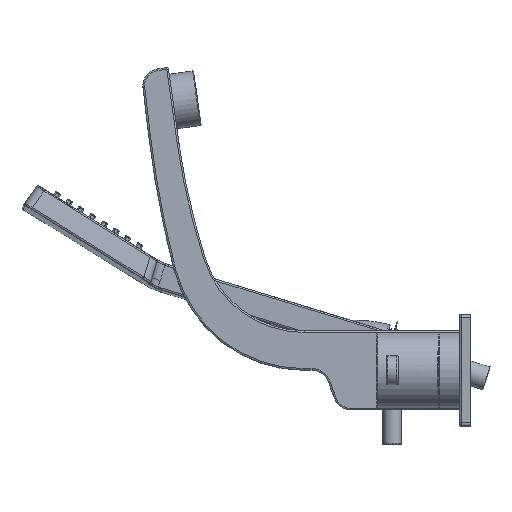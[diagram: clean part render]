
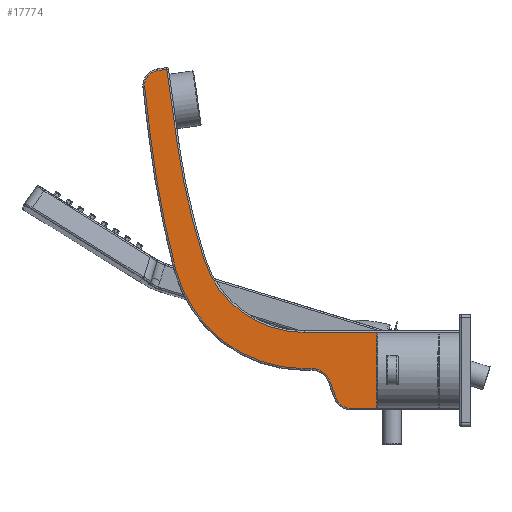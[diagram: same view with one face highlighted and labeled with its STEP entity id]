
A CAD part, left-side view. The second image highlights one B-rep face of the part: STEP entity #17774.
In plain terms, the highlighted planar face has unit normal (-1, 0, 0).
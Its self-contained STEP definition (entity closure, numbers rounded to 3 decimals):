
#573=PLANE('',#19108);
#1599=FACE_OUTER_BOUND('',#2845,.T.);
#2845=EDGE_LOOP('',(#12581,#12582,#12583,#12584,#12585,#12586,#12587,#12588,
#12589,#12590,#12591,#12592,#12593,#12594,#12595));
#4210=LINE('',#40408,#5496);
#4215=LINE('',#40424,#5501);
#4216=LINE('',#40434,#5502);
#4217=LINE('',#40438,#5503);
#4218=LINE('',#40444,#5504);
#4219=LINE('',#40448,#5505);
#4220=LINE('',#40452,#5506);
#4221=LINE('',#40453,#5507);
#5496=VECTOR('',#21754,43.323);
#5501=VECTOR('',#21769,90.);
#5502=VECTOR('',#21782,5.207);
#5503=VECTOR('',#21785,27.094);
#5504=VECTOR('',#21790,4.627);
#5505=VECTOR('',#21793,10.472);
#5506=VECTOR('',#21796,62.998);
#5507=VECTOR('',#21797,44.);
#6786=CIRCLE('',#19107,61.);
#6787=CIRCLE('',#19109,399.521);
#6788=CIRCLE('',#19110,9.);
#6789=CIRCLE('',#19111,595.154);
#6790=CIRCLE('',#19112,77.);
#6791=CIRCLE('',#19113,11.);
#6792=CIRCLE('',#19114,9.);
#8086=VERTEX_POINT('',#40405);
#8087=VERTEX_POINT('',#40407);
#8092=VERTEX_POINT('',#40420);
#8093=VERTEX_POINT('',#40422);
#8095=VERTEX_POINT('',#40428);
#8096=VERTEX_POINT('',#40433);
#8097=VERTEX_POINT('',#40435);
#8098=VERTEX_POINT('',#40437);
#8099=VERTEX_POINT('',#40439);
#8100=VERTEX_POINT('',#40441);
#8101=VERTEX_POINT('',#40443);
#8102=VERTEX_POINT('',#40445);
#8103=VERTEX_POINT('',#40447);
#8104=VERTEX_POINT('',#40449);
#8105=VERTEX_POINT('',#40451);
#9739=EDGE_CURVE('',#8086,#8087,#4210,.T.);
#9747=EDGE_CURVE('',#8093,#8092,#4215,.T.);
#9750=EDGE_CURVE('',#8095,#8093,#6786,.T.);
#9751=EDGE_CURVE('',#8087,#8095,#6787,.T.);
#9752=EDGE_CURVE('',#8096,#8086,#4216,.T.);
#9753=EDGE_CURVE('',#8097,#8096,#6788,.T.);
#9754=EDGE_CURVE('',#8098,#8097,#4217,.T.);
#9755=EDGE_CURVE('',#8099,#8098,#6789,.T.);
#9756=EDGE_CURVE('',#8100,#8099,#6790,.T.);
#9757=EDGE_CURVE('',#8101,#8100,#4218,.T.);
#9758=EDGE_CURVE('',#8102,#8101,#6791,.T.);
#9759=EDGE_CURVE('',#8103,#8102,#4219,.T.);
#9760=EDGE_CURVE('',#8104,#8103,#6792,.T.);
#9761=EDGE_CURVE('',#8105,#8104,#4220,.T.);
#9762=EDGE_CURVE('',#8092,#8105,#4221,.T.);
#12581=ORIENTED_EDGE('',*,*,#9747,.F.);
#12582=ORIENTED_EDGE('',*,*,#9750,.F.);
#12583=ORIENTED_EDGE('',*,*,#9751,.F.);
#12584=ORIENTED_EDGE('',*,*,#9739,.F.);
#12585=ORIENTED_EDGE('',*,*,#9752,.F.);
#12586=ORIENTED_EDGE('',*,*,#9753,.F.);
#12587=ORIENTED_EDGE('',*,*,#9754,.F.);
#12588=ORIENTED_EDGE('',*,*,#9755,.F.);
#12589=ORIENTED_EDGE('',*,*,#9756,.F.);
#12590=ORIENTED_EDGE('',*,*,#9757,.F.);
#12591=ORIENTED_EDGE('',*,*,#9758,.F.);
#12592=ORIENTED_EDGE('',*,*,#9759,.F.);
#12593=ORIENTED_EDGE('',*,*,#9760,.F.);
#12594=ORIENTED_EDGE('',*,*,#9761,.F.);
#12595=ORIENTED_EDGE('',*,*,#9762,.F.);
#17774=ADVANCED_FACE('',(#1599),#573,.F.);
#19107=AXIS2_PLACEMENT_3D('',#40430,#21776,#21777);
#19108=AXIS2_PLACEMENT_3D('',#40431,#21778,#21779);
#19109=AXIS2_PLACEMENT_3D('',#40432,#21780,#21781);
#19110=AXIS2_PLACEMENT_3D('',#40436,#21783,#21784);
#19111=AXIS2_PLACEMENT_3D('',#40440,#21786,#21787);
#19112=AXIS2_PLACEMENT_3D('',#40442,#21788,#21789);
#19113=AXIS2_PLACEMENT_3D('',#40446,#21791,#21792);
#19114=AXIS2_PLACEMENT_3D('',#40450,#21794,#21795);
#21754=DIRECTION('',(0.,-0.139,-0.99));
#21769=DIRECTION('',(0.,-1.,0.));
#21776=DIRECTION('center_axis',(-1.,0.,0.));
#21777=DIRECTION('ref_axis',(0.,0.,1.));
#21778=DIRECTION('center_axis',(1.,0.,0.));
#21779=DIRECTION('ref_axis',(0.,0.,-1.));
#21780=DIRECTION('center_axis',(-1.,0.,0.));
#21781=DIRECTION('ref_axis',(0.,0.,1.));
#21782=DIRECTION('',(0.,-0.99,0.139));
#21783=DIRECTION('center_axis',(1.,0.,0.));
#21784=DIRECTION('ref_axis',(0.,0.993,-0.118));
#21785=DIRECTION('',(0.,0.118,0.993));
#21786=DIRECTION('center_axis',(1.,0.,0.));
#21787=DIRECTION('ref_axis',(0.,0.968,-0.25));
#21788=DIRECTION('center_axis',(1.,0.,0.));
#21789=DIRECTION('ref_axis',(0.,0.,-1.));
#21790=DIRECTION('',(0.,1.,0.));
#21791=DIRECTION('center_axis',(-1.,0.,0.));
#21792=DIRECTION('ref_axis',(0.,0.,1.));
#21793=DIRECTION('',(0.,0.342,0.94));
#21794=DIRECTION('center_axis',(1.,0.,0.));
#21795=DIRECTION('ref_axis',(0.,0.,
-1.));
#21796=DIRECTION('',(0.,1.,0.));
#21797=DIRECTION('',(0.,0.,-1.));
#40405=CARTESIAN_POINT('',(-23.,235.895,174.676));
#40407=CARTESIAN_POINT('',(-23.,229.865,131.775));
#40408=CARTESIAN_POINT('',(-23.,235.895,174.676));
#40420=CARTESIAN_POINT('',(-23.,66.26,22.));
#40422=CARTESIAN_POINT('',(-23.,156.26,22.));
#40424=CARTESIAN_POINT('',(-23.,156.26,22.));
#40428=CARTESIAN_POINT('',(-23.,214.288,64.192));
#40430=CARTESIAN_POINT('Origin',(-23.,156.26,83.));
#40431=CARTESIAN_POINT('Origin',(-23.,249.894,76.928));
#40432=CARTESIAN_POINT('Origin',(-23.,-165.768,187.377));
#40433=CARTESIAN_POINT('',(-23.,241.051,173.951));
#40434=CARTESIAN_POINT('',(-23.,241.051,173.951));
#40435=CARTESIAN_POINT('',(-23.,248.735,163.973));
#40436=CARTESIAN_POINT('Origin',(-23.,239.798,165.039));
#40437=CARTESIAN_POINT('',(-23.,245.527,137.07));
#40438=CARTESIAN_POINT('',(-23.,245.527,137.07));
#40439=CARTESIAN_POINT('',(-23.,230.815,58.75));
#40440=CARTESIAN_POINT('Origin',(-23.,-345.441,207.539));
#40441=CARTESIAN_POINT('',(-23.,156.26,1.));
#40442=CARTESIAN_POINT('Origin',(-23.,156.26,78.));
#40443=CARTESIAN_POINT('',(-23.,151.633,1.));
#40444=CARTESIAN_POINT('',(-23.,151.633,1.));
#40445=CARTESIAN_POINT('',(-23.,141.297,-6.238));
#40446=CARTESIAN_POINT('Origin',(-23.,151.633,-10.));
#40447=CARTESIAN_POINT('',(-23.,137.715,-16.078));
#40448=CARTESIAN_POINT('',(-23.,137.715,-16.078));
#40449=CARTESIAN_POINT('',(-23.,129.258,-22.));
#40450=CARTESIAN_POINT('Origin',(-23.,129.258,-13.));
#40451=CARTESIAN_POINT('',(-23.,66.26,-22.));
#40452=CARTESIAN_POINT('',(-23.,66.26,-22.));
#40453=CARTESIAN_POINT('',(-23.,66.26,22.));
